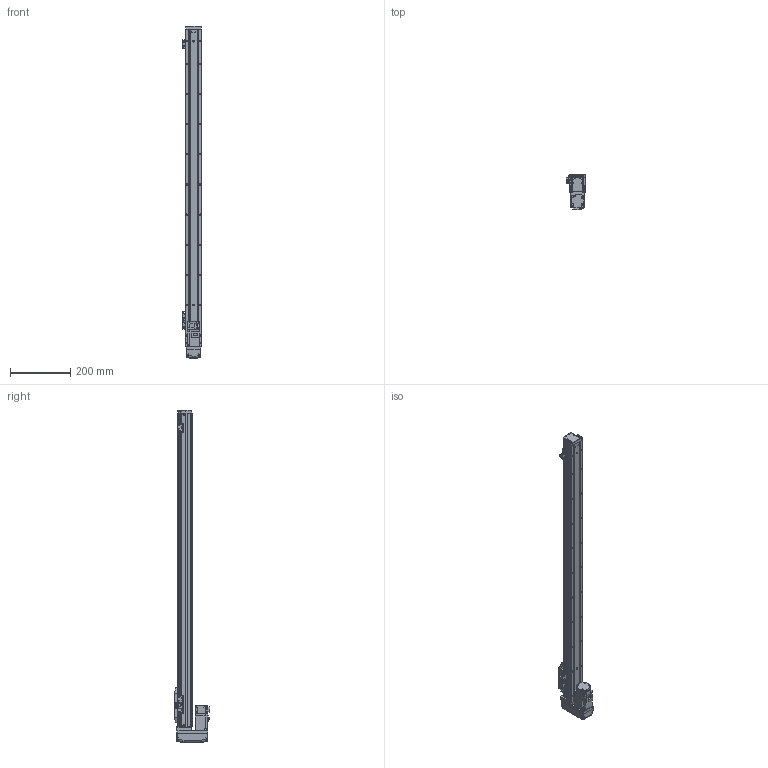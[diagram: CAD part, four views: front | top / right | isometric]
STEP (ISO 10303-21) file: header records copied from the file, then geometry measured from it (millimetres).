
FILE_DESCRIPTION (( 'STEP AP203' ), '1' );
FILE_NAME ('GTH5-900-BM-M10-C4.step', '2023-08-28T00:49:59', ( '微软用户' ), ( '微软中国' ), 'SwSTEP 2.0', 'SolidWorks 2020', '' );
FILE_SCHEMA (( 'CONFIG_CONTROL_DESIGN' ));
Length unit declared in the file: millimetre
Products named in the file (19): GTH50-003; GTH50-028; GTH50-006; GTH50-013; GTH50-022-1; GTH50-004; GTH50-023; HG-KR13; GBT 70.3-M3℅6; GBT 70.1-M3℅6; GTH50-027-1_BTHA50-027-2; BTH-M3X5X6; GBT96.1-2002 3×0.8; GTH50-026; GTH50-001_900; GTH50-024; GTH5-900-BM-M10-C4; GBT 70.1-M4×16; GBT 70.1-M2.5×6
Assembly tree (57 placements, depth 2):
  GTH5-900-BM-M10-C4
    GTH50-006
    GTH50-004
    GBT 70.3-M3℅6  x4
    BTH-M3X5X6  x8
    GTH50-001_900
    GBT 70.1-M4×16  x8
    GTH50-003
    GTH50-013
    GTH50-023  x3
    GBT 70.1-M3℅6  x12
    GBT96.1-2002 3×0.8  x6
    GTH50-024  x3
    GBT 70.1-M2.5×6  x2
    GTH50-028  x2
    GTH50-022-1
    HG-KR13
    GTH50-027-1_BTHA50-027-2
    GTH50-026
Bounding box: 63.8 x 118.9 x 1100 mm (x, y, z)
Volume: 2430380.9 mm3; surface area: 377491.3 mm2
Topology: 59 solids, 59 shells, 2172 faces, 5052 edges, 3100 vertices
Faces by surface type: plane 1142, cylinder 601, cone 219, torus 162, bspline 40, sphere 8
Entity records: 40604 total; most frequent: CARTESIAN_POINT 8019, DIRECTION 6269, ORIENTED_EDGE 6018, EDGE_CURVE 3009, AXIS2_PLACEMENT_3D 2188, VERTEX_POINT 1902, VECTOR 1893, LINE 1893
